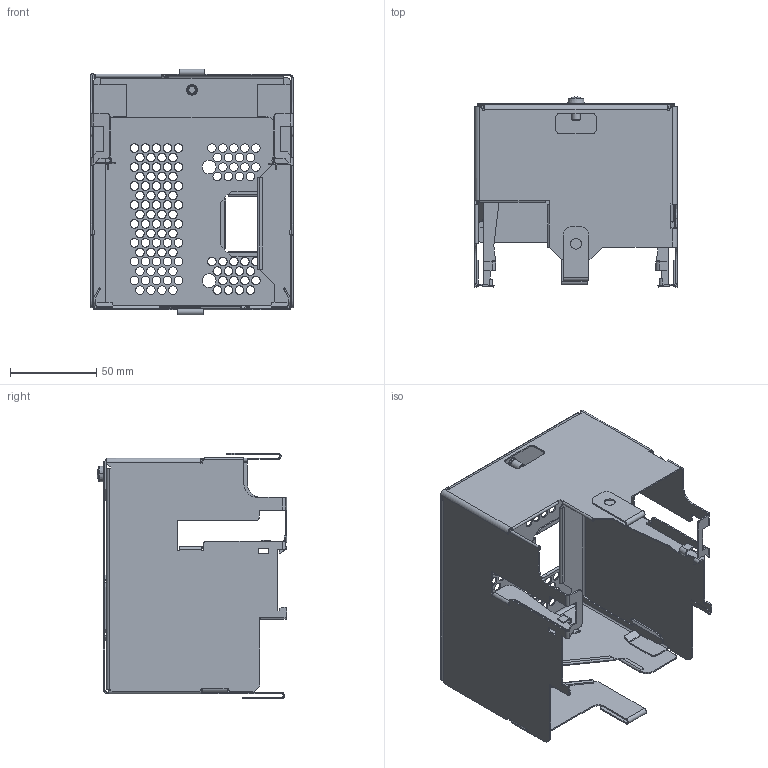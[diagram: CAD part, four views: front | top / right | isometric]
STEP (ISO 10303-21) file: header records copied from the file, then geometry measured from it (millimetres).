
FILE_DESCRIPTION( ( '' ), '1' );
FILE_NAME( '//partserver001.servicenet/client_exchange/iodir/jobs/output/wkb24707129_no0/STEP/e7000a_2_03.stp', '2010-05-03T12:07:06', ( '' ), ( '' ), ' ', ' ', ' ' );
FILE_SCHEMA( ( 'CONFIG_CONTROL_DESIGN' ) );
Length unit declared in the file: millimetre
Products named in the file (3): 1; 2; 3
Bounding box: 117.6 x 110.39 x 142.6 mm (x, y, z)
Volume: 50404.5 mm3; surface area: 129597.7 mm2
Topology: 3 solids, 3 shells, 786 faces, 2263 edges, 1480 vertices
Faces by surface type: plane 384, cylinder 381, cone 12, torus 8, sphere 1
Entity records: 26577 total; most frequent: DIRECTION 4679, CARTESIAN_POINT 4568, ORIENTED_EDGE 4526, EDGE_CURVE 2263, AXIS2_PLACEMENT_3D 1631, VERTEX_POINT 1480, LINE 1417, VECTOR 1417
